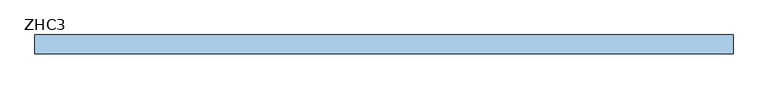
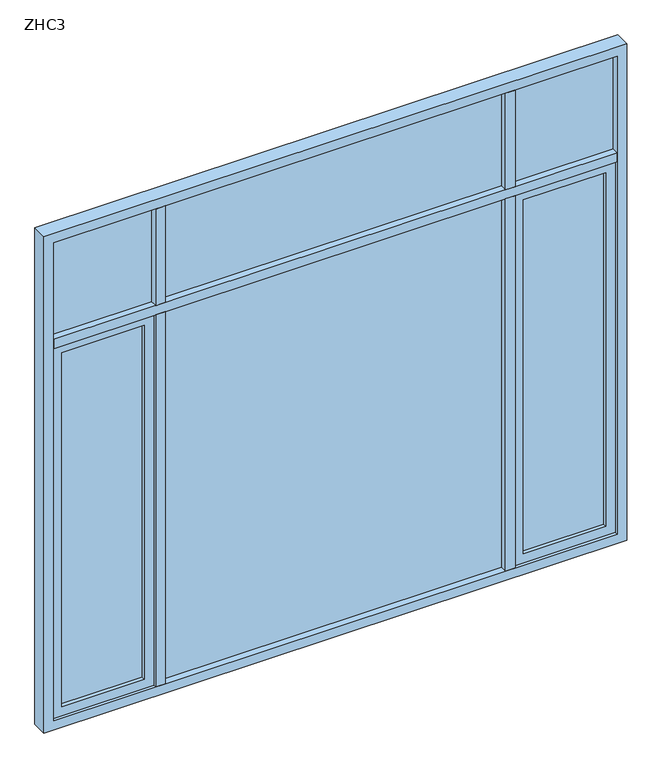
"""IFC4 building model written with IfcOpenShell, lengths in millimetres: window geometry, 组合窗 - 双层三列(平开+固定+平开) - 上部三扇固定 : ZHC3."""

from ifc_helpers import new_model, si_unit, frame, origin, place, context, project, spatial, polyline, outline, extrude, source, transform, mapped, element, save


def zhc3_4fd9556d(model_context):
    return source(origin(), model_context, "Body", "SweptSolid", [
        extrude(outline(polyline([(-975.0, 10.0), (-1400.0, 10.0), (-1400.0, 20.0), (-975.0, 20.0), (-975.0, 10.0)])), frame((0.0, 0.0, 1000.0), z_axis=(0.0, 0.0, 1.0), x_axis=(1.0, 0.0, 0.0)), (0.0, 0.0, 1.0), 1925.0),
        extrude(outline(polyline([(2975.0, -925.0), (2975.0, -1450.0), (950.0, -1450.0), (950.0, -925.0), (2975.0, -925.0)]), holes=[polyline([(1000.0, -975.0), (1000.0, -1400.0), (2925.0, -1400.0), (2925.0, -975.0), (1000.0, -975.0)])]), frame((0.0, -10.0, 0.0), z_axis=(0.0, 1.0, 0.0), x_axis=(0.0, 0.0, 1.0)), (0.0, 0.0, 1.0), 50.0),
        extrude(outline(polyline([(875.0, 10.0), (-875.0, 10.0), (-875.0, 20.0), (875.0, 20.0), (875.0, 10.0)])), frame((0.0, 0.0, 950.0), z_axis=(0.0, 0.0, 1.0), x_axis=(1.0, 0.0, 0.0)), (0.0, 0.0, 1.0), 2025.0),
        extrude(outline(polyline([(875.0, 10.0), (-875.0, 10.0), (-875.0, 20.0), (875.0, 20.0), (875.0, 10.0)])), frame((0.0, 0.0, 3025.0), z_axis=(0.0, 0.0, 1.0), x_axis=(1.0, 0.0, 0.0)), (0.0, 0.0, 1.0), 525.0),
        extrude(outline(polyline([(-925.0, 10.0), (-1450.0, 10.0), (-1450.0, 20.0), (-925.0, 20.0), (-925.0, 10.0)])), frame((0.0, 0.0, 3025.0), z_axis=(0.0, 0.0, 1.0), x_axis=(1.0, 0.0, 0.0)), (0.0, 0.0, 1.0), 525.0),
        extrude(outline(polyline([(1400.0, 10.0), (975.0, 10.0), (975.0, 20.0), (1400.0, 20.0), (1400.0, 10.0)])), frame((0.0, 0.0, 1000.0), z_axis=(0.0, 0.0, 1.0), x_axis=(1.0, 0.0, 0.0)), (0.0, 0.0, 1.0), 1925.0),
        extrude(outline(polyline([(2975.0, 1450.0), (2975.0, 925.0), (950.0, 925.0), (950.0, 1450.0), (2975.0, 1450.0)]), holes=[polyline([(1000.0, 1400.0), (1000.0, 975.0), (2925.0, 975.0), (2925.0, 1400.0), (1000.0, 1400.0)])]), frame((0.0, -10.0, 0.0), z_axis=(0.0, 1.0, 0.0), x_axis=(0.0, 0.0, 1.0)), (0.0, 0.0, 1.0), 50.0),
        extrude(outline(polyline([(1450.0, 10.0), (925.0, 10.0), (925.0, 20.0), (1450.0, 20.0), (1450.0, 10.0)])), frame((0.0, 0.0, 3025.0), z_axis=(0.0, 0.0, 1.0), x_axis=(1.0, 0.0, 0.0)), (0.0, 0.0, 1.0), 525.0),
        extrude(outline(polyline([(875.0, 55.0), (925.0, 55.0), (925.0, -25.0), (875.0, -25.0), (875.0, 55.0)])), frame((0.0, 0.0, 3025.0), z_axis=(0.0, 0.0, 1.0), x_axis=(1.0, 0.0, 0.0)), (0.0, 0.0, 1.0), 525.0),
        extrude(outline(polyline([(-925.0, 55.0), (-875.0, 55.0), (-875.0, -25.0), (-925.0, -25.0), (-925.0, 55.0)])), frame((0.0, 0.0, 3025.0), z_axis=(0.0, 0.0, 1.0), x_axis=(1.0, 0.0, 0.0)), (0.0, 0.0, 1.0), 525.0),
        extrude(outline(polyline([(875.0, 55.0), (925.0, 55.0), (925.0, -25.0), (875.0, -25.0), (875.0, 55.0)])), frame((0.0, 0.0, 950.0), z_axis=(0.0, 0.0, 1.0), x_axis=(1.0, 0.0, 0.0)), (0.0, 0.0, 1.0), 2025.0),
        extrude(outline(polyline([(-925.0, 55.0), (-875.0, 55.0), (-875.0, -25.0), (-925.0, -25.0), (-925.0, 55.0)])), frame((0.0, 0.0, 950.0), z_axis=(0.0, 0.0, 1.0), x_axis=(1.0, 0.0, 0.0)), (0.0, 0.0, 1.0), 2025.0),
        extrude(outline(polyline([(-1450.0, 55.0), (1450.0, 55.0), (1450.0, -25.0), (-1450.0, -25.0), (-1450.0, 55.0)])), frame((0.0, 0.0, 2975.0), z_axis=(0.0, 0.0, 1.0), x_axis=(1.0, 0.0, 0.0)), (0.0, 0.0, 1.0), 50.0),
        extrude(outline(polyline([(3600.0, -1500.0), (900.0, -1500.0), (900.0, 1500.0), (3600.0, 1500.0), (3600.0, -1500.0)]), holes=[polyline([(3550.0, 1450.0), (950.0, 1450.0), (950.0, -1450.0), (3550.0, -1450.0), (3550.0, 1450.0)])]), frame((0.0, -25.0, 0.0), z_axis=(0.0, 1.0, 0.0), x_axis=(0.0, 0.0, 1.0)), (0.0, 0.0, 1.0), 80.0),
    ])


if __name__ == "__main__":
    model = new_model("IFC4")
    model_context = context("Model", 3, world=origin())
    ifc_project = project(units=[si_unit("LENGTHUNIT", "METRE", prefix="MILLI")], contexts=[model_context])
    site = spatial("IfcSite", under=ifc_project)
    building = spatial("IfcBuilding", under=site)
    placement = place(None, origin())
    zhc3_shape = zhc3_4fd9556d(model_context)
    element("IfcWindow", 1, ObjectType="组合窗 - 双层三列(平开+固定+平开) - 上部三扇固定 : ZHC3", at=placement, inside=building, context=model_context, shape_type="MappedRepresentation", body=[
        mapped(zhc3_shape, transform((0.0, 0.0, 0.0), x_axis=(1.0, 0.0, 0.0), y_axis=(0.0, 1.0, 0.0), z_axis=(0.0, 0.0, 1.0))),
    ])
    save(model, "model.ifc")
